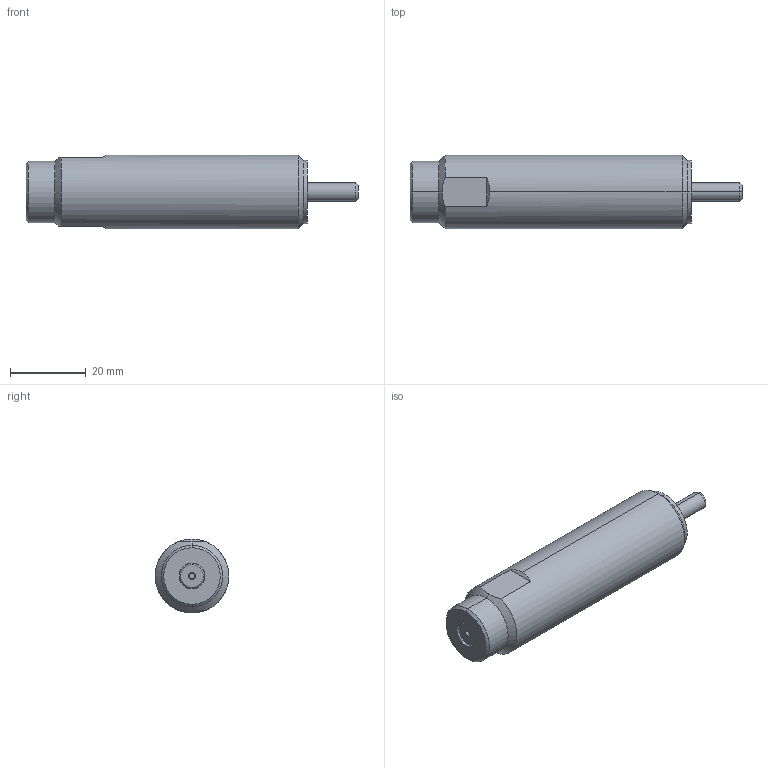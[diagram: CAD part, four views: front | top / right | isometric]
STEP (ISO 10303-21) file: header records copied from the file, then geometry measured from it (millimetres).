
FILE_DESCRIPTION (( 'STEP AP203' ), '1' );
FILE_NAME ('SPM 50MC.STEP', '2009-04-24T21:14:23', ( ' ' ), ( '' ), 'SwSTEP 2.0', 'SolidWorks 2006233', '' );
FILE_SCHEMA (( 'CONFIG_CONTROL_DESIGN' ));
Length unit declared in the file: inch
Products named in the file (1): SPM 50MC
Bounding box: 87.88 x 19.56 x 19.56 mm (x, y, z)
Surface area: 5630.9 mm2 (no closed solid volume)
Topology: 0 solids, 4 shells, 39 faces, 96 edges, 62 vertices
Faces by surface type: plane 15, cylinder 12, cone 10, torus 2
Entity records: 1272 total; most frequent: CARTESIAN_POINT 278, DIRECTION 200, ORIENTED_EDGE 174, EDGE_CURVE 96, AXIS2_PLACEMENT_3D 80, VERTEX_POINT 62, EDGE_LOOP 43, VECTOR 40
